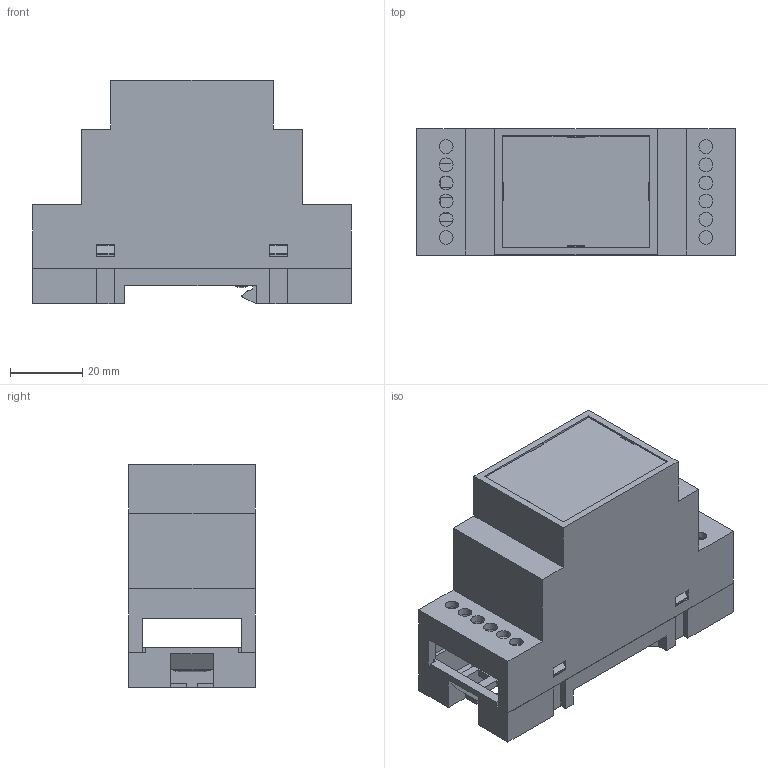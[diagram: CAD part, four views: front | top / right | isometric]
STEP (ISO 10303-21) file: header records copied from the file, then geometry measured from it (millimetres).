
FILE_DESCRIPTION(('STEP AP214'), '1');
FILE_NAME('Êîðïóñ õ2', '', ('UNSPECIFIED'), ('UNSPECIFIED'), 'C3D Converter', 'C3D Toolkit', '');
FILE_SCHEMA(('AUTOMOTIVE_DESIGN { 1 0 10303 214 3 1 1}'));
Length unit declared in the file: millimetre
Assembly tree (3 placements, depth 2):
  (unnamed)
    (unnamed)
    (unnamed)
    (unnamed)
Bounding box: 88.35 x 35 x 61.9 mm (x, y, z)
Volume: 35859 mm3; surface area: 38579.4 mm2
Topology: 3 solids, 3 shells, 476 faces, 1370 edges, 900 vertices
Faces by surface type: plane 414, cylinder 58, torus 4
Full cylindrical faces by diameter (mm): 3.8 x12, 5 x4
Entity records: 15558 total; most frequent: CARTESIAN_POINT 2734, ORIENTED_EDGE 2708, DIRECTION 2440, EDGE_CURVE 1354, LINE 1228, VECTOR 1228, VERTEX_POINT 900, AXIS2_PLACEMENT_3D 606
